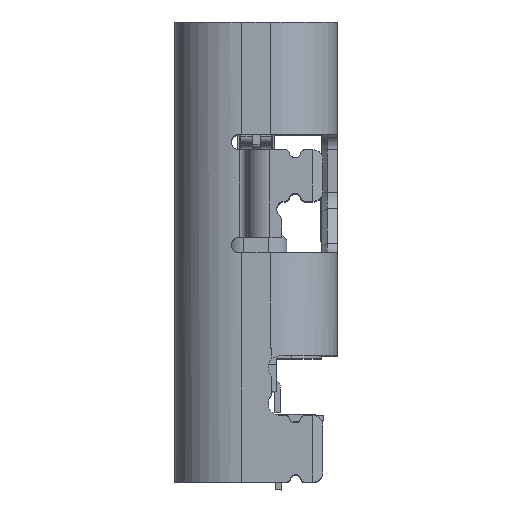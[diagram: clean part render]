
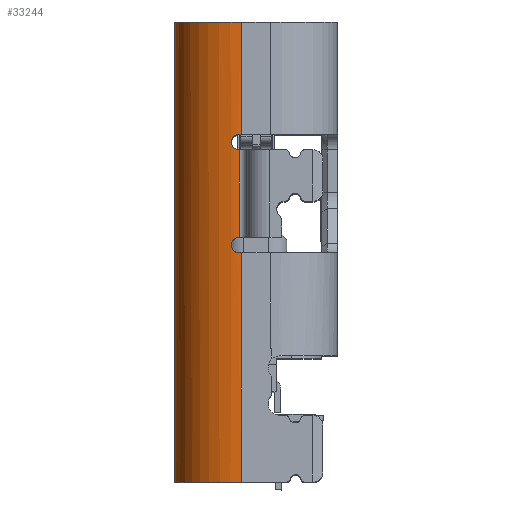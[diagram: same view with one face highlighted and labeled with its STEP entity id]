
A CAD part, top view. The second image highlights one B-rep face of the part: STEP entity #33244.
In plain terms, the highlighted cylindrical face has radius 1.3 mm (diameter 2.6 mm), a partial arc.
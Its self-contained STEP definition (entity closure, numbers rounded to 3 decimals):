
#8686=CARTESIAN_POINT('',(-3.17,0.28,
1.13));
#8687=DIRECTION('',(0.,0.,1.));
#8688=DIRECTION('',(0.,1.,0.));
#8689=AXIS2_PLACEMENT_3D('',#8686,#8687,#8688);
#11593=DIRECTION('',(0.,0.,1.));
#11594=VECTOR('',#11593,2.18);
#11595=CARTESIAN_POINT('',(-4.47,0.28,
-1.05));
#11596=LINE('',#11595,#11594);
#11597=DIRECTION('',(0.,0.,1.));
#11598=VECTOR('',#11597,4.45);
#11599=CARTESIAN_POINT('',(-4.47,0.28,
-7.8));
#11600=LINE('',#11599,#11598);
#11601=DIRECTION('',(0.,0.,-1.));
#11602=VECTOR('',#11601,8.918);
#11603=CARTESIAN_POINT('',(-3.17,1.58,
1.13));
#11604=LINE('',#11603,#11602);
#11609=CARTESIAN_POINT('',(-3.17,0.28,
-1.05));
#11610=DIRECTION('',(0.,0.,-1.));
#11611=DIRECTION('',(-1.,0.,0.));
#11612=AXIS2_PLACEMENT_3D('',#11609,#11610,#11611);
#12678=CARTESIAN_POINT('',(-3.17,0.28,
-3.35));
#12679=DIRECTION('',(0.,0.,1.));
#12680=DIRECTION('',(-0.999,0.038,0.));
#12681=AXIS2_PLACEMENT_3D('',#12678,#12679,#12680);
#12786=CARTESIAN_POINT('',(-3.17,0.28,
-7.8));
#12787=DIRECTION('',(0.,0.,-1.));
#12788=DIRECTION('',(-1.,0.,0.));
#12789=AXIS2_PLACEMENT_3D('',#12786,#12787,#12788);
#12971=CARTESIAN_POINT('',(-3.255,1.577,
-7.8));
#12972=CARTESIAN_POINT('',(-3.246,1.578,
-7.8));
#12973=CARTESIAN_POINT('',(-3.227,1.579,
-7.799));
#12974=CARTESIAN_POINT('',(-3.198,1.58,
-7.795));
#12975=CARTESIAN_POINT('',(-3.179,1.58,
-7.79));
#12976=CARTESIAN_POINT('',(-3.17,1.58,
-7.788));
#14266=CARTESIAN_POINT('',(-4.455,0.48,
-3.2));
#14267=CARTESIAN_POINT('',(-4.455,0.48,
-3.215));
#14268=CARTESIAN_POINT('',(-4.455,0.475,
-3.246));
#14269=CARTESIAN_POINT('',(-4.458,0.455,
-3.288));
#14270=CARTESIAN_POINT('',(-4.463,0.419,
-3.324));
#14271=CARTESIAN_POINT('',(-4.467,0.377,
-3.345));
#14272=CARTESIAN_POINT('',(-4.468,0.346,
-3.35));
#14273=CARTESIAN_POINT('',(-4.469,0.33,
-3.35));
#14279=CARTESIAN_POINT('',(-4.469,0.33,
-3.05));
#14280=CARTESIAN_POINT('',(-4.468,0.345,
-3.05));
#14281=CARTESIAN_POINT('',(-4.467,0.376,
-3.055));
#14282=CARTESIAN_POINT('',(-4.463,0.418,
-3.075));
#14283=CARTESIAN_POINT('',(-4.458,0.454,
-3.111));
#14284=CARTESIAN_POINT('',(-4.455,0.475,
-3.153));
#14285=CARTESIAN_POINT('',(-4.455,0.48,
-3.185));
#14286=CARTESIAN_POINT('',(-4.455,0.48,
-3.2));
#14306=CARTESIAN_POINT('',(-3.17,0.28,
-3.05));
#14307=DIRECTION('',(0.,0.,-1.));
#14308=DIRECTION('',(-0.999,0.034,0.));
#14309=AXIS2_PLACEMENT_3D('',#14306,#14307,#14308);
#14552=DIRECTION('',(0.,0.,-1.));
#14553=VECTOR('',#14552,1.7);
#14554=CARTESIAN_POINT('',(-4.469,0.325,
-1.35));
#14555=LINE('',#14554,#14553);
#14570=CARTESIAN_POINT('',(-3.17,0.28,
-1.35));
#14571=DIRECTION('',(0.,0.,1.));
#14572=DIRECTION('',(-0.999,0.038,0.));
#14573=AXIS2_PLACEMENT_3D('',#14570,#14571,#14572);
#14607=CARTESIAN_POINT('',(-4.455,0.48,
-1.2));
#14608=CARTESIAN_POINT('',(-4.455,0.48,
-1.215));
#14609=CARTESIAN_POINT('',(-4.455,0.475,
-1.246));
#14610=CARTESIAN_POINT('',(-4.458,0.455,
-1.288));
#14611=CARTESIAN_POINT('',(-4.463,0.419,
-1.324));
#14612=CARTESIAN_POINT('',(-4.467,0.377,
-1.345));
#14613=CARTESIAN_POINT('',(-4.468,0.346,
-1.35));
#14614=CARTESIAN_POINT('',(-4.469,0.33,
-1.35));
#14620=CARTESIAN_POINT('',(-4.469,0.33,
-1.05));
#14621=CARTESIAN_POINT('',(-4.468,0.345,
-1.05));
#14622=CARTESIAN_POINT('',(-4.467,0.376,
-1.055));
#14623=CARTESIAN_POINT('',(-4.463,0.418,
-1.075));
#14624=CARTESIAN_POINT('',(-4.458,0.454,
-1.111));
#14625=CARTESIAN_POINT('',(-4.455,0.475,
-1.153));
#14626=CARTESIAN_POINT('',(-4.455,0.48,
-1.185));
#14627=CARTESIAN_POINT('',(-4.455,0.48,
-1.2));
#20799=CARTESIAN_POINT('',(-4.469,0.325,
-1.35));
#20801=VERTEX_POINT('',#20799);
#21142=CARTESIAN_POINT('',(-4.469,0.325,
-3.05));
#21144=VERTEX_POINT('',#21142);
#21384=CARTESIAN_POINT('',(-4.47,0.28,
-7.8));
#21385=CARTESIAN_POINT('',(-3.255,1.577,
-7.8));
#21386=VERTEX_POINT('',#21384);
#21387=VERTEX_POINT('',#21385);
#21558=VERTEX_POINT('',#14607);
#21559=VERTEX_POINT('',#14614);
#21828=CARTESIAN_POINT('',(-4.469,0.33,
-3.35));
#21829=CARTESIAN_POINT('',(-4.47,0.28,
-3.35));
#21830=VERTEX_POINT('',#21828);
#21831=VERTEX_POINT('',#21829);
#21874=CARTESIAN_POINT('',(-3.17,1.58,
1.13));
#21875=VERTEX_POINT('',#21874);
#22213=CARTESIAN_POINT('',(-4.47,0.28,
1.13));
#22214=VERTEX_POINT('',#22213);
#22297=CARTESIAN_POINT('',(-3.17,1.58,
-7.788));
#22299=VERTEX_POINT('',#22297);
#22591=CARTESIAN_POINT('',(-4.469,0.33,
-3.05));
#22592=VERTEX_POINT('',#22591);
#22688=CARTESIAN_POINT('',(-4.455,0.48,
-3.2));
#22689=VERTEX_POINT('',#22688);
#22702=CARTESIAN_POINT('',(-4.47,0.28,
-1.05));
#22703=VERTEX_POINT('',#22702);
#22841=CARTESIAN_POINT('',(-4.469,0.33,
-1.05));
#22842=VERTEX_POINT('',#22841);
#33209=CARTESIAN_POINT('',(-3.17,0.28,
-8.6));
#33210=DIRECTION('',(0.,0.,1.));
#33211=DIRECTION('',(0.,-1.,0.));
#33212=AXIS2_PLACEMENT_3D('',#33209,#33210,#33211);
#33213=CYLINDRICAL_SURFACE('',#33212,1.3);
#33215=ORIENTED_EDGE('',*,*,#33214,.F.);
#33217=ORIENTED_EDGE('',*,*,#33216,.T.);
#33219=ORIENTED_EDGE('',*,*,#33218,.T.);
#33221=ORIENTED_EDGE('',*,*,#33220,.T.);
#33223=ORIENTED_EDGE('',*,*,#33222,.T.);
#33225=ORIENTED_EDGE('',*,*,#33224,.T.);
#33227=ORIENTED_EDGE('',*,*,#33226,.T.);
#33229=ORIENTED_EDGE('',*,*,#33228,.T.);
#33231=ORIENTED_EDGE('',*,*,#33230,.T.);
#33233=ORIENTED_EDGE('',*,*,#33232,.T.);
#33235=ORIENTED_EDGE('',*,*,#33234,.F.);
#33237=ORIENTED_EDGE('',*,*,#33236,.T.);
#33239=ORIENTED_EDGE('',*,*,#33238,.T.);
#33240=ORIENTED_EDGE('',*,*,#30140,.F.);
#33241=ORIENTED_EDGE('',*,*,#29363,.T.);
#33242=EDGE_LOOP('',(#33215,#33217,#33219,#33221,#33223,#33225,#33227,#33229,
#33231,#33233,#33235,#33237,#33239,#33240,#33241));
#33243=FACE_OUTER_BOUND('',#33242,.F.);
#8690=CIRCLE('',#8689,1.3);
#11613=CIRCLE('',#11612,1.3);
#12682=CIRCLE('',#12681,1.3);
#12790=CIRCLE('',#12789,1.3);
#12977=B_SPLINE_CURVE_WITH_KNOTS('',3,(#12971,#12972,#12973,#12974,#12975,
#12976),.UNSPECIFIED.,.F.,.F.,(4,1,1,4),(0.,0.333,
0.667,1.),.UNSPECIFIED.);
#14274=B_SPLINE_CURVE_WITH_KNOTS('',3,(#14266,#14267,#14268,#14269,#14270,
#14271,#14272,#14273),.UNSPECIFIED.,.F.,.F.,(4,1,1,1,1,4),(0.,0.2,0.4,
0.6,0.8,1.),.UNSPECIFIED.);
#14287=B_SPLINE_CURVE_WITH_KNOTS('',3,(#14279,#14280,#14281,#14282,#14283,
#14284,#14285,#14286),.UNSPECIFIED.,.F.,.F.,(4,1,1,1,1,4),(0.,0.2,0.4,
0.6,0.8,1.),.UNSPECIFIED.);
#14310=CIRCLE('',#14309,1.3);
#14574=CIRCLE('',#14573,1.3);
#14615=B_SPLINE_CURVE_WITH_KNOTS('',3,(#14607,#14608,#14609,#14610,#14611,
#14612,#14613,#14614),.UNSPECIFIED.,.F.,.F.,(4,1,1,1,1,4),(0.,0.2,0.4,
0.6,0.8,1.),.UNSPECIFIED.);
#14628=B_SPLINE_CURVE_WITH_KNOTS('',3,(#14620,#14621,#14622,#14623,#14624,
#14625,#14626,#14627),.UNSPECIFIED.,.F.,.F.,(4,1,1,1,1,4),(0.,0.2,0.4,
0.6,0.8,1.),.UNSPECIFIED.);
#29363=EDGE_CURVE('',#21875,#22214,#8690,.T.);
#30140=EDGE_CURVE('',#21875,#22299,#11604,.T.);
#33214=EDGE_CURVE('',#22703,#22214,#11596,.T.);
#33216=EDGE_CURVE('',#22703,#22842,#11613,.T.);
#33218=EDGE_CURVE('',#22842,#21558,#14628,.T.);
#33220=EDGE_CURVE('',#21558,#21559,#14615,.T.);
#33222=EDGE_CURVE('',#21559,#20801,#14574,.T.);
#33224=EDGE_CURVE('',#20801,#21144,#14555,.T.);
#33226=EDGE_CURVE('',#21144,#22592,#14310,.T.);
#33228=EDGE_CURVE('',#22592,#22689,#14287,.T.);
#33230=EDGE_CURVE('',#22689,#21830,#14274,.T.);
#33232=EDGE_CURVE('',#21830,#21831,#12682,.T.);
#33234=EDGE_CURVE('',#21386,#21831,#11600,.T.);
#33236=EDGE_CURVE('',#21386,#21387,#12790,.T.);
#33238=EDGE_CURVE('',#21387,#22299,#12977,.T.);
#33244=ADVANCED_FACE('',(#33243),#33213,.T.);
